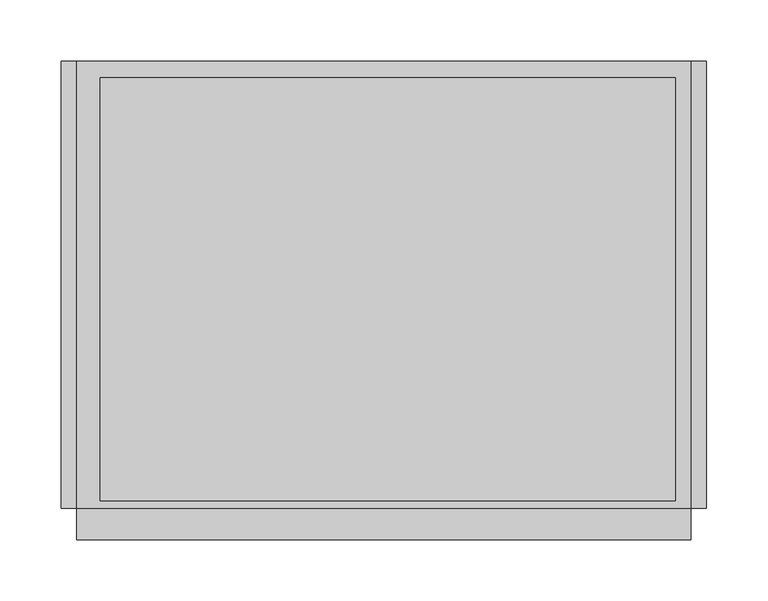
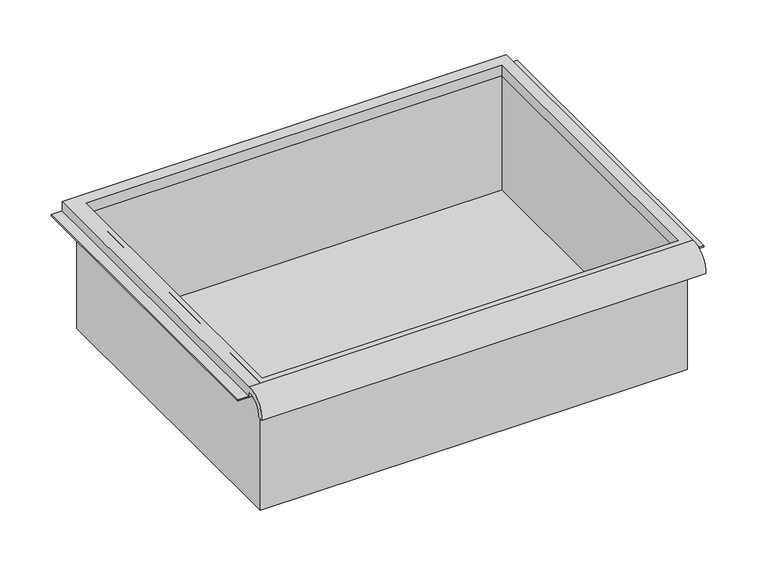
"""IFC4 building model written with IfcOpenShell, lengths in millimetres: furniture geometry."""

from ifc_helpers import new_model, si_unit, frame, origin, place, context, project, spatial, polyline, circle_curve, faceted_brep, source, transform, mapped, element, save
from ifc_brep_helpers import plane_surface, cylinder_surface, revolved_surface, advanced_brep


def furniture_f594aa21(model_context):
    return source(origin(), model_context, "Body", "SolidModel", [
        advanced_brep(
        [(263.7474999, -195.297482, 1389.8510272), (263.7474999, -188.9125, 1389.8510272), (263.7474999, -169.8625, 1408.1125004), (263.7474999, -169.8625, 1401.7625), (263.7474999, 195.2625, 1401.7625), (263.7474999, 195.2625, 1414.4625004), (263.7474999, -169.8625, 1414.4625004), (-237.9025001, -195.297482, 1389.8510272), (-237.9025001, -169.8625, 1414.4625004), (-237.9025001, 195.2625, 1414.4625004), (-237.9025001, 195.2625, 1401.7625), (-237.9025001, -169.8625, 1401.7625), (-237.9025001, -169.8625, 1408.1125004), (-237.9025001, -188.9125, 1389.8510272), (251.0474878, 181.9275, 1401.7625), (-218.8095642, 181.9275, 1401.7625), (-218.8095642, -163.5125, 1401.7625), (251.0474878, -163.5125, 1401.7625), (-218.8095642, 181.9275, 1414.4625004), (251.0474878, 181.9275, 1414.4625004), (251.0474878, -163.5125, 1414.4625004), (-218.8095642, -163.5125, 1414.4625004)],
        [
            (0, 1),
            (1, 2, circle_curve(frame((263.7474999, -172.3404634, 1391.6304376), z_axis=(-1.0, 0.0, 0.0), x_axis=(0.0, 1.0, 0.0)), 16.6672942)),
            (2, 3),
            (3, 4),
            (4, 5),
            (5, 6),
            (6, 0, circle_curve(frame((263.7474999, -172.4601678, 1391.6983276), z_axis=(1.0, 0.0, 0.0), x_axis=(0.0, 1.0, 0.0)), 22.9119061)),
            (7, 8, circle_curve(frame((-237.9025001, -172.4601678, 1391.6983276), z_axis=(-1.0, 0.0, 0.0), x_axis=(0.0, 1.0, 0.0)), 22.9119061)),
            (8, 9),
            (9, 10),
            (10, 11),
            (11, 12),
            (12, 13, circle_curve(frame((-237.9025001, -172.3404634, 1391.6304376), z_axis=(1.0, 0.0, 0.0), x_axis=(0.0, 1.0, 0.0)), 16.6672942)),
            (13, 7),
            (0, 7),
            (13, 1),
            (12, 2),
            (11, 3),
            (10, 4),
            (14, 15),
            (15, 16),
            (16, 17),
            (17, 14),
            (9, 5),
            (8, 6),
            (18, 19),
            (19, 20),
            (20, 21),
            (21, 18),
            (14, 19),
            (18, 15),
            (21, 16),
            (20, 17),
        ],
        [
            plane_surface(frame((263.7474999, -195.297482, 1389.8510272), z_axis=(1.0, 0.0, 0.0), x_axis=(0.0, 1.0, 0.0))),
            plane_surface(frame((-237.9025001, -195.297482, 1389.8510272), z_axis=(-1.0, 0.0, 0.0), x_axis=(0.0, -1.0, 0.0))),
            plane_surface(frame((263.7474999, -195.297482, 1389.8510272), z_axis=(0.0, 0.0, -1.0), x_axis=(-1.0, 0.0, 0.0))),
            revolved_surface(polyline([(-237.9025001, -155.67316920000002, 1391.6304376), (263.7474999, -155.67316920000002, 1391.6304376)]), (-237.9025001, -172.3404634, 1391.6304376), (-1.0, 0.0, 0.0)),
            plane_surface(frame((263.7474999, -169.8625, 1408.1125004), z_axis=(0.0, -1.0, 0.0), x_axis=(-1.0, 0.0, 0.0))),
            plane_surface(frame((263.7474999, -169.8625, 1401.7625), z_axis=(0.0, 0.0, -1.0), x_axis=(-1.0, 0.0, 0.0))),
            plane_surface(frame((263.7474999, 195.2625, 1401.7625), z_axis=(0.0, 1.0, 0.0), x_axis=(-1.0, 0.0, 0.0))),
            plane_surface(frame((263.7474999, 195.2625, 1414.4625004), z_axis=(0.0, 0.0, 1.0), x_axis=(-1.0, 0.0, 0.0))),
            cylinder_surface(frame((-237.9025001, -172.4601678, 1391.6983276), z_axis=(1.0, 0.0, 0.0), x_axis=(0.0, 1.0, 0.0)), 22.9119061),
            plane_surface(frame((251.0474878, 181.9275, 1414.4625004), z_axis=(0.0, -1.0, 0.0), x_axis=(0.0, 0.0, -1.0))),
            plane_surface(frame((-218.8095642, 181.9275, 1414.4625004), z_axis=(1.0, 0.0, 0.0), x_axis=(0.0, 0.0, -1.0))),
            plane_surface(frame((-218.8095642, -163.5125, 1414.4625004), z_axis=(0.0, 1.0, 0.0), x_axis=(0.0, 0.0, -1.0))),
            plane_surface(frame((251.0474878, -163.5125, 1414.4625004), z_axis=(-1.0, 0.0, 0.0), x_axis=(0.0, 0.0, -1.0))),
        ],
        [
            (0, [[1, 2, 3, 4, 5, 6, 7]]),
            (1, [[8, 9, 10, 11, 12, 13, 14]]),
            (2, [[-1, 15, -14, 16]]),
            (3, [[-2, -16, -13, 17]]),
            (4, [[-3, -17, -12, 18]]),
            (5, [[-4, -18, -11, 19], [20, 21, 22, 23]]),
            (6, [[-5, -19, -10, 24]]),
            (7, [[-6, -24, -9, 25], [26, 27, 28, 29]]),
            (8, [[-7, -25, -8, -15]]),
            (9, [[30, -26, 31, -20]]),
            (10, [[-31, -29, 32, -21]]),
            (11, [[-32, -28, 33, -22]]),
            (12, [[-30, -23, -33, -27]]),
        ],
    ),
        faceted_brep([(-225.2025001, -169.8625, 1262.0625004), (257.3974878, -169.8625, 1262.0625004), (257.3974878, -169.8625, 1414.4625004), (-225.2025001, -169.8625, 1414.4625004), (-225.2025001, 188.9125, 1262.0625004), (-225.2025001, 188.9125, 1414.4625004), (257.3974878, 188.9125, 1414.4625004), (257.3974878, 188.9125, 1262.0625004), (-218.8095642, 181.9275, 1414.4625004), (251.0474878, 181.9275, 1414.4625004), (251.0474878, -163.5125, 1414.4625004), (-218.8095642, -163.5125, 1414.4625004), (251.0474878, 181.9275, 1265.2375004), (-218.8095642, 181.9275, 1265.2375004), (-218.8095642, -163.5125, 1265.2375004), (251.0474878, -163.5125, 1265.2375004)], [[[0, 1, 2, 3]], [[4, 5, 6, 7]], [[1, 0, 4, 7]], [[2, 1, 7, 6]], [[3, 2, 6, 5], [8, 9, 10, 11]], [[0, 3, 5, 4]], [[12, 13, 14, 15]], [[13, 12, 9, 8]], [[14, 13, 8, 11]], [[15, 14, 11, 10]], [[12, 15, 10, 9]]]),
        faceted_brep([(-250.6025001, 195.2625, 1401.7625), (-250.6025001, 195.2625, 1403.35), (-231.5525001, 195.2625, 1403.35), (-231.5525001, 195.2625, 1401.7625), (-250.6025001, -169.8625, 1401.7625), (-231.5525001, -169.8625, 1401.7625), (-231.5525001, -169.8625, 1403.35), (-250.6025001, -169.8625, 1403.35)], [[[0, 1, 2, 3]], [[4, 5, 6, 7]], [[1, 0, 4, 7]], [[2, 1, 7, 6]], [[3, 2, 6, 5]], [[0, 3, 5, 4]]]),
        faceted_brep([(276.4474999, 195.2625, 1401.7625), (263.7474999, 195.2625, 1401.7625), (263.7474999, 195.2625, 1403.35), (276.4474999, 195.2625, 1403.35), (276.4474999, -169.8625, 1401.7625), (276.4474999, -169.8625, 1403.35), (263.7474999, -169.8625, 1403.35), (263.7474999, -169.8625, 1401.7625)], [[[0, 1, 2, 3]], [[4, 5, 6, 7]], [[1, 0, 4, 7]], [[2, 1, 7, 6]], [[3, 2, 6, 5]], [[0, 3, 5, 4]]]),
    ])


if __name__ == "__main__":
    model = new_model("IFC4")
    model_context = context("Model", 3, world=origin())
    ifc_project = project(units=[si_unit("LENGTHUNIT", "METRE", prefix="MILLI")], contexts=[model_context])
    site = spatial("IfcSite", under=ifc_project)
    building = spatial("IfcBuilding", under=site)
    placement = place(None, origin())
    furniture_shape = furniture_f594aa21(model_context)
    element("IfcFurniture", 1, ObjectType="HermanMiller_Carts_CT501_Drawer : 6\"H x 15\"D x 20\"W", at=placement, inside=building, context=model_context, shape_type="MappedRepresentation", body=[
        mapped(furniture_shape, transform((0.0, 0.0, 0.0), x_axis=(1.0, 0.0, 0.0), y_axis=(0.0, 1.0, 0.0), z_axis=(0.0, 0.0, 1.0))),
    ])
    save(model, "model.ifc")
